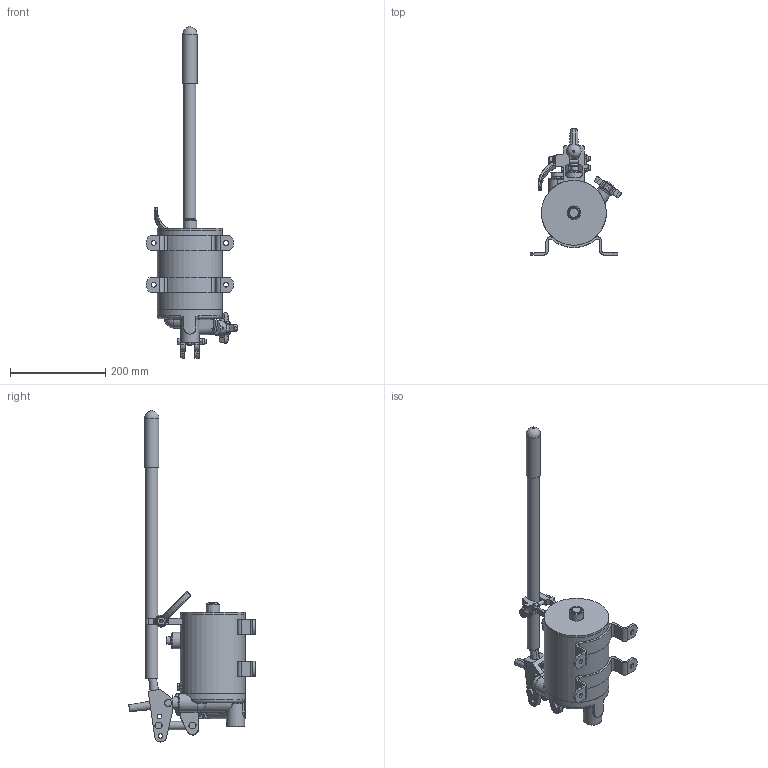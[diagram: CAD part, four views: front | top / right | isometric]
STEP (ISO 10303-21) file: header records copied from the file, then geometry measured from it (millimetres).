
FILE_DESCRIPTION((''),'2;1');
FILE_NAME('\\SRVR-ENG\EngSales\PM-HP-5B.stp','2011-08-01T11:16:43',('KneiflD'),(''),'Autodesk Inventor 2011','Autodesk Inventor 2011','');
FILE_SCHEMA(('AUTOMOTIVE_DESIGN { 1 0 10303 214 1 1 1 1 }'));
Length unit declared in the file: inch
Products named in the file (45): PM-HP-5B; 062100578; 162100035; 162100034; 200014408; 052100542; 200300211; 180701017; 180901072; 090000121; 080600005; 010300003; 270003020; 180901070; 230001045; 180901069; 270003016; 200013922; 190300026; 090000002; 170004150; 180901073; 050400123; 230010331; 170002089; 220000203; 180901068; 200300202; 190100047; 200018003; 170002005; 220001005; 230007501-RING; 180901514; 180901026; 190300037; 190100013; 180901515; 230009003; 200100013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
Assembly tree (51 placements, depth 4):
  PM-HP-5B
    062100578
      162100035
        162100034
        200014408
      052100542
      200300211
      180701017  x2
      180901072
    090000121
    080600005
    010300003
    270003020
      180901070
      230001045
      180901069
      270003016
    200013922
    190300026
    090000002
    170004150
    180901073
    050400123
    230010331
    170002089  x3
    220000203  x3
    180901068
      200300202
      190100047
    200018003
    170002005
    220001005
    230007501-RING
    180901514
      180901026
      190300037
      190100013
    180901515
    190100013
    230009003
    200100013  x2
    270002006
    230009001
    230008003
    200300003
    200018002
Bounding box: 193.04 x 265.7 x 698.3 mm (x, y, z)
Volume: 1514107 mm3; surface area: 546032.1 mm2
Topology: 46 solids, 46 shells, 1060 faces, 2555 edges, 1607 vertices
Faces by surface type: plane 457, cylinder 291, cone 143, bspline 103, torus 52, sphere 14
Full cylindrical faces by diameter (mm): 0.505 x2, 4.763 x3, 4.877 x1, 5.537 x2, 6.35 x5, 6.401 x1, 6.528 x2, 7.798 x3, 7.925 x1, 7.938 x2, 8.334 x2, 8.714 x1, 9.449 x2, 9.493 x3, 9.525 x4, 9.576 x11, 10.084 x2, 10.319 x4, 10.719 x1, 10.996 x2, 11.354 x2, 11.506 x2, 12.116 x1, 13.462 x1, 13.494 x1, 14.097 x2, 14.275 x1, 14.348 x1, 14.529 x2, 15.037 x1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
Entity records: 33479 total; most frequent: CARTESIAN_POINT 11604, DIRECTION 4198, ORIENTED_EDGE 4086, EDGE_CURVE 2043, AXIS2_PLACEMENT_3D 1654, VERTEX_POINT 1391, EDGE_LOOP 1256, FACE_OUTER_BOUND 948
